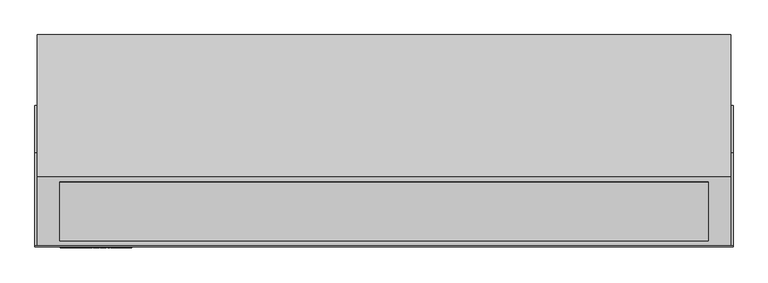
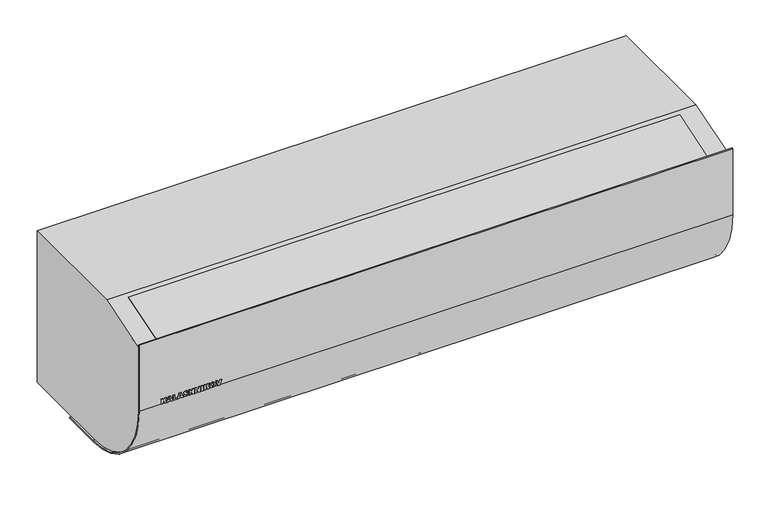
"""IFC4 building model written with IfcOpenShell, lengths in millimetres: proxy geometry, ИЗТТ_Завеса_Электрическая : KVC-D10E12-31."""

from ifc_helpers import new_model, si_unit, point, frame, frame_2d, origin, place, context, project, spatial, polyline, circle_curve, trimmed, segment, composite_curve, outline, extrude, source, transform, mapped, element, save
from ifc_brep_helpers import plane_surface, cylinder_surface, advanced_brep


def mechanical_equipment_add983ee(model_context):
    return source(origin(), model_context, "Body", "SolidModel", [
        extrude(outline(polyline([(162.0, -519.0196078), (152.0, -519.0196078), (152.0, -515.8823529), (153.7647059, -515.8823529), (155.7745098, -514.1115196), (152.0, -512.2794118), (152.0, -508.4313725), (158.2775735, -511.9056373), (162.0, -508.627451), (162.0, -512.8982843), (158.2224265, -515.8823529), (162.0, -515.8823529), (162.0, -519.0196078)])), frame((0.0, -342.0, 0.0), z_axis=(0.0, 1.0, 0.0), x_axis=(0.0, 0.0, 1.0)), (0.0, 0.0, 1.0), 1.0),
        extrude(outline(polyline([(153.5686275, -501.4338235), (152.0, -500.9803922), (152.0, -497.6470588), (162.0, -501.0202206), (162.0, -505.0582108), (152.0, -508.4313725), (152.0, -505.0980392), (153.5686275, -504.6660539), (153.5686275, -501.4338235)]), holes=[polyline([(155.9215686, -502.0281863), (155.9215686, -504.0165441), (159.4540441, -503.0392157), (155.9215686, -502.0281863)])]), frame((0.0, -342.0, 0.0), z_axis=(0.0, 1.0, 0.0), x_axis=(0.0, 0.0, 1.0)), (0.0, 0.0, 1.0), 1.0),
        extrude(outline(polyline([(162.0, -496.6666667), (152.0, -496.6666667), (152.0, -488.8235294), (154.3529412, -488.8235294), (154.3529412, -493.5294118), (162.0, -493.5294118), (162.0, -496.6666667)])), frame((0.0, -342.0, 0.0), z_axis=(0.0, 1.0, 0.0), x_axis=(0.0, 0.0, 1.0)), (0.0, 0.0, 1.0), 1.0),
        extrude(outline(polyline([(153.5686275, -481.4338235), (152.0, -480.9803922), (152.0, -477.6470588), (162.0, -481.0202206), (162.0, -485.0582108), (152.0, -488.4313725), (152.0, -485.0980392), (153.5686275, -484.6660539), (153.5686275, -481.4338235)]), holes=[polyline([(155.9215686, -482.0281863), (155.9215686, -484.0165441), (159.4540441, -483.0392157), (155.9215686, -482.0281863)])]), frame((0.0, -342.0, 0.0), z_axis=(0.0, 1.0, 0.0), x_axis=(0.0, 0.0, 1.0)), (0.0, 0.0, 1.0), 1.0),
        extrude(outline(polyline([(155.3394608, -477.254902), (152.8026961, -476.1488971), (151.8039216, -472.6378676), (152.2297794, -470.2420343), (153.4813113, -468.7637868), (155.28125, -468.2352941), (156.7870711, -468.6305147), (157.9129902, -469.8958333), (158.8106618, -472.7757353), (160.4313725, -472.9074755), (160.1050858, -472.1338848), (159.0588235, -471.7647059), (159.2395833, -468.627451), (161.4883578, -469.8054534), (162.1960784, -472.6807598), (161.8039216, -475.1011029), (160.7285539, -476.4231005), (159.276348, -476.8627451), (157.3492647, -475.9957108), (156.1237745, -473.1219363), (154.8186275, -471.372549), (154.0818015, -471.6865809), (153.7647059, -472.5796569), (154.3958333, -473.7775735), (155.5294118, -474.1176471), (155.3394608, -477.254902)])), frame((0.0, -342.0, 0.0), z_axis=(0.0, 1.0, 0.0), x_axis=(0.0, 0.0, 1.0)), (0.0, 0.0, 1.0), 1.0),
        extrude(outline(polyline([(162.0, -466.6666667), (152.0, -466.6666667), (152.0, -463.5294118), (156.1176471, -463.5294118), (156.1176471, -460.1960784), (152.0, -460.1960784), (152.0, -457.0588235), (162.0, -457.0588235), (162.0, -460.1960784), (158.4705882, -460.1960784), (158.4705882, -463.5294118), (162.0, -463.5294118), (162.0, -466.6666667)])), frame((0.0, -342.0, 0.0), z_axis=(0.0, 1.0, 0.0), x_axis=(0.0, 0.0, 1.0)), (0.0, 0.0, 1.0), 1.0),
        extrude(outline(polyline([(162.0, -455.0980392), (152.0, -455.0980392), (152.0, -452.1568627), (157.4901961, -452.1568627), (152.0, -448.4313725), (152.0, -445.4901961), (162.0, -445.4901961), (162.0, -448.4313725), (156.4730392, -448.4313725), (162.0, -452.1783088), (162.0, -455.0980392)])), frame((0.0, -342.0, 0.0), z_axis=(0.0, 1.0, 0.0), x_axis=(0.0, 0.0, 1.0)), (0.0, 0.0, 1.0), 1.0),
        extrude(outline(polyline([(-440.1960784, -342.0), (-443.3333333, -342.0), (-443.3333333, -341.0), (-440.1960784, -341.0), (-440.1960784, -342.0)])), frame((0.0, 0.0, 152.0), z_axis=(0.0, 0.0, 1.0), x_axis=(1.0, 0.0, 0.0)), (0.0, 0.0, 1.0), 10.0),
        extrude(outline(polyline([(162.0, -438.0392157), (152.0, -438.0392157), (152.0, -434.9019608), (153.7647059, -434.9019608), (155.7745098, -433.1311275), (152.0, -431.2990196), (152.0, -427.4509804), (158.2775735, -430.9252451), (162.0, -427.6470588), (162.0, -431.9178922), (158.2224265, -434.9019608), (162.0, -434.9019608), (162.0, -438.0392157)])), frame((0.0, -342.0, 0.0), z_axis=(0.0, 1.0, 0.0), x_axis=(0.0, 0.0, 1.0)), (0.0, 0.0, 1.0), 1.0),
        extrude(outline(polyline([(156.9938725, -426.8627451), (154.0603554, -426.171875), (152.346201, -424.3688725), (151.8039216, -421.5594363), (152.4304534, -418.7729779), (154.1859681, -417.0618873), (157.0765931, -416.4705882), (160.8495711, -417.8247549), (162.1960784, -421.685049), (160.8250613, -425.4947917), (156.9938725, -426.8627451)]), holes=[polyline([(156.9938725, -423.7254902), (159.1813725, -423.1678922), (159.8431373, -421.6911765), (159.1920956, -420.1685049), (157.1286765, -419.6078431), (154.8048407, -420.145527), (154.1568627, -421.6636029), (154.8186275, -423.1709559), (156.9938725, -423.7254902)])]), frame((0.0, -342.0, 0.0), z_axis=(0.0, 1.0, 0.0), x_axis=(0.0, 0.0, 1.0)), (0.0, 0.0, 1.0), 1.0),
        extrude(outline(polyline([(162.0, -415.6862745), (152.0, -411.9699755), (152.0, -408.6397059), (162.0, -404.9019608), (162.0, -408.2352941), (154.8033088, -410.2941176), (162.0, -412.3560049), (162.0, -415.6862745)])), frame((0.0, -342.0, 0.0), z_axis=(0.0, 1.0, 0.0), x_axis=(0.0, 0.0, 1.0)), (0.0, 0.0, 1.0), 1.0),
        extrude(outline(polyline([(-22.2777778, 10.0), (-22.2777778, 0.0), (-40.5555556, 10.0), (-40.5555556, 0.0), (-58.8333333, 10.0), (-58.8333333, 0.0), (-77.1111111, 10.0), (-77.1111111, 0.0), (-95.3888889, 10.0), (-95.3888889, 0.0), (-113.5833165, 10.5360909), (-4.0, 10.5360909), (-4.0, 0.0), (-22.2777778, 10.0)])), frame((-520.0, 0.0, 0.0), z_axis=(1.0, 0.0, 0.0), x_axis=(0.0, 1.0, 0.0)), (0.0, 0.0, 1.0), 1040.0),
        advanced_brep(
        [(556.0, -227.3333333, 304.0), (556.0, -339.0, 269.0), (556.0, -339.0, 152.0), (556.0, -189.0, 2.0), (556.0, 0.0, 2.0), (556.0, 0.0, 304.0), (-556.0, -227.3333333, 304.0), (-556.0, 0.0, 304.0), (-556.0, 0.0, 2.0), (-556.0, -189.0, 2.0), (-556.0, -339.0, 152.0), (-556.0, -339.0, 269.0), (520.0, -4.0, 2.0), (-520.0, -4.0, 2.0), (-520.0, -113.6666667, 2.0), (520.0, -113.6666667, 2.0), (520.0, -4.0, 10.0), (520.0, -113.6666667, 10.0), (-520.0, -113.6666667, 10.0), (-520.0, -4.0, 10.0)],
        [
            (0, 1),
            (1, 2),
            (2, 3, circle_curve(frame((556.0, -189.0, 152.0), z_axis=(1.0, 0.0, 0.0), x_axis=(0.0, 1.0, 0.0)), 150.0)),
            (3, 4),
            (4, 5),
            (5, 0),
            (6, 7),
            (7, 8),
            (8, 9),
            (9, 10, circle_curve(frame((-556.0, -189.0, 152.0), z_axis=(-1.0, 0.0, 0.0), x_axis=(0.0, 1.0, 0.0)), 150.0)),
            (10, 11),
            (11, 6),
            (1, 11),
            (10, 2),
            (4, 8),
            (7, 5),
            (6, 0),
            (9, 3),
            (12, 13),
            (13, 14),
            (14, 15),
            (15, 12),
            (16, 17),
            (17, 18),
            (18, 19),
            (19, 16),
            (19, 13),
            (12, 16),
            (18, 14),
            (17, 15),
        ],
        [
            plane_surface(frame((556.0, -227.3333333, 304.0), z_axis=(1.0, 0.0, 0.0), x_axis=(0.0, -0.9542262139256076, -0.2990858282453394))),
            plane_surface(frame((-556.0, -227.3333333, 304.0), z_axis=(-1.0, 0.0, 0.0), x_axis=(0.0, 0.9542262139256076, 0.2990858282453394))),
            plane_surface(frame((556.0, -339.0, 269.0), z_axis=(0.0, -1.0, 0.0), x_axis=(-1.0, 0.0, 0.0))),
            plane_surface(frame((556.0, 0.0, 2.0), z_axis=(0.0, 1.0, 0.0), x_axis=(-1.0, 0.0, 0.0))),
            plane_surface(frame((556.0, 0.0, 304.0), z_axis=(0.0, 0.0, 1.0), x_axis=(-1.0, 0.0, 0.0))),
            cylinder_surface(frame((-556.0, -189.0, 152.0), z_axis=(1.0, 0.0, 0.0), x_axis=(0.0, 1.0, 0.0)), 150.0),
            plane_surface(frame((556.0, -189.0, 2.0), z_axis=(0.0, 0.0, -1.0), x_axis=(-1.0, 0.0, 0.0))),
            plane_surface(frame((556.0, -227.3333333, 304.0), z_axis=(0.0, -0.2990858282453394, 0.9542262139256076), x_axis=(-1.0, 0.0, 0.0))),
            plane_surface(frame((-520.0, -4.0, 10.0), z_axis=(0.0, 0.0, -1.0), x_axis=(-1.0, 0.0, 0.0))),
            plane_surface(frame((520.0, -4.0, 10.0), z_axis=(0.0, -1.0, 0.0), x_axis=(0.0, 0.0, -1.0))),
            plane_surface(frame((-520.0, -4.0, 10.0), z_axis=(1.0, 0.0, 0.0), x_axis=(0.0, 0.0, -1.0))),
            plane_surface(frame((-520.0, -113.6666667, 10.0), z_axis=(0.0, 1.0, 0.0), x_axis=(0.0, 0.0, -1.0))),
            plane_surface(frame((520.0, -113.6666667, 10.0), z_axis=(-1.0, 0.0, 0.0), x_axis=(0.0, 0.0, -1.0))),
        ],
        [
            (0, [[1, 2, 3, 4, 5, 6]]),
            (1, [[7, 8, 9, 10, 11, 12]]),
            (2, [[-2, 13, -11, 14]]),
            (3, [[-5, 15, -8, 16]]),
            (4, [[-6, -16, -7, 17]]),
            (5, [[-3, -14, -10, 18]]),
            (6, [[-4, -18, -9, -15], [19, 20, 21, 22]]),
            (7, [[-1, -17, -12, -13]]),
            (8, [[23, 24, 25, 26]]),
            (9, [[-26, 27, -19, 28]]),
            (10, [[-25, 29, -20, -27]]),
            (11, [[-24, 30, -21, -29]]),
            (12, [[-23, -28, -22, -30]]),
        ],
    ),
        extrude(outline(polyline([(0.0, -99.1190169), (0.0, 0.0), (1040.0, 0.0), (1040.0, -99.1190169), (0.0, -99.1190169)])), frame((520.0, -330.390912, 270.9360668), z_axis=(0.0, -0.2990858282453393, 0.9542262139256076), x_axis=(-1.0, 0.0, 0.0)), (0.0, 0.0, 1.0), 1.4548211),
        extrude(outline(composite_curve([segment(polyline([(-341.0, 284.0), (-339.0, 284.0), (-339.0, 152.0)]), True, "CONTINUOUS"), segment(trimmed(circle_curve(frame_2d((-189.0, 152.0)), 150.0), [point((-339.0, 152.0))], [point((-189.0, 2.0))], True, "CARTESIAN"), True, "CONTINUOUS"), segment(polyline([(-189.0, 2.0), (-113.6666667, 2.0), (-113.6666667, 0.0), (-189.0, 0.0)]), True, "CONTINUOUS"), segment(trimmed(circle_curve(frame_2d((-189.0, 152.0)), 152.0), [point((-189.0, 0.0))], [point((-341.0, 152.0))], False, "CARTESIAN"), True, "CONTINUOUS"), segment(polyline([(-341.0, 152.0), (-341.0, 284.0)]), True, "CONTINUOUS")], self_intersect=False)), frame((-560.0, 0.0, 0.0), z_axis=(1.0, 0.0, 0.0), x_axis=(0.0, 1.0, 0.0)), (0.0, 0.0, 1.0), 1120.0),
    ])


if __name__ == "__main__":
    model = new_model("IFC4")
    model_context = context("Model", 3, world=origin())
    ifc_project = project(units=[si_unit("LENGTHUNIT", "METRE", prefix="MILLI")], contexts=[model_context])
    site = spatial("IfcSite", under=ifc_project)
    building = spatial("IfcBuilding", under=site)
    placement = place(None, origin())
    mechanical_equipment_shape = mechanical_equipment_add983ee(model_context)
    element("IfcBuildingElementProxy", 1, Name="ИЗТТ_Завеса_Электрическая : KVC-D10E12-31", ObjectType="ИЗТТ_Завеса_Электрическая : KVC-D10E12-31", at=placement, inside=building, context=model_context, shape_type="MappedRepresentation", body=[
        mapped(mechanical_equipment_shape, transform((0.0, 0.0, 0.0), x_axis=(1.0, 0.0, 0.0), y_axis=(0.0, 1.0, 0.0), z_axis=(0.0, 0.0, 1.0))),
    ])
    save(model, "model.ifc")
